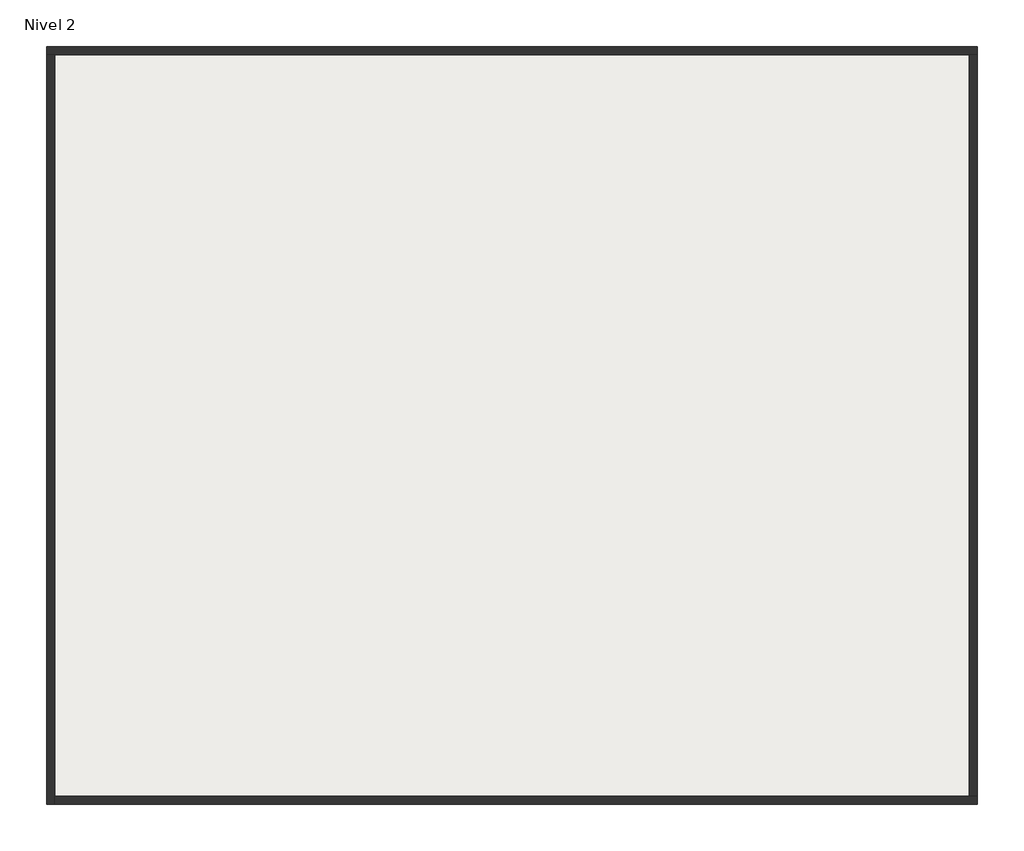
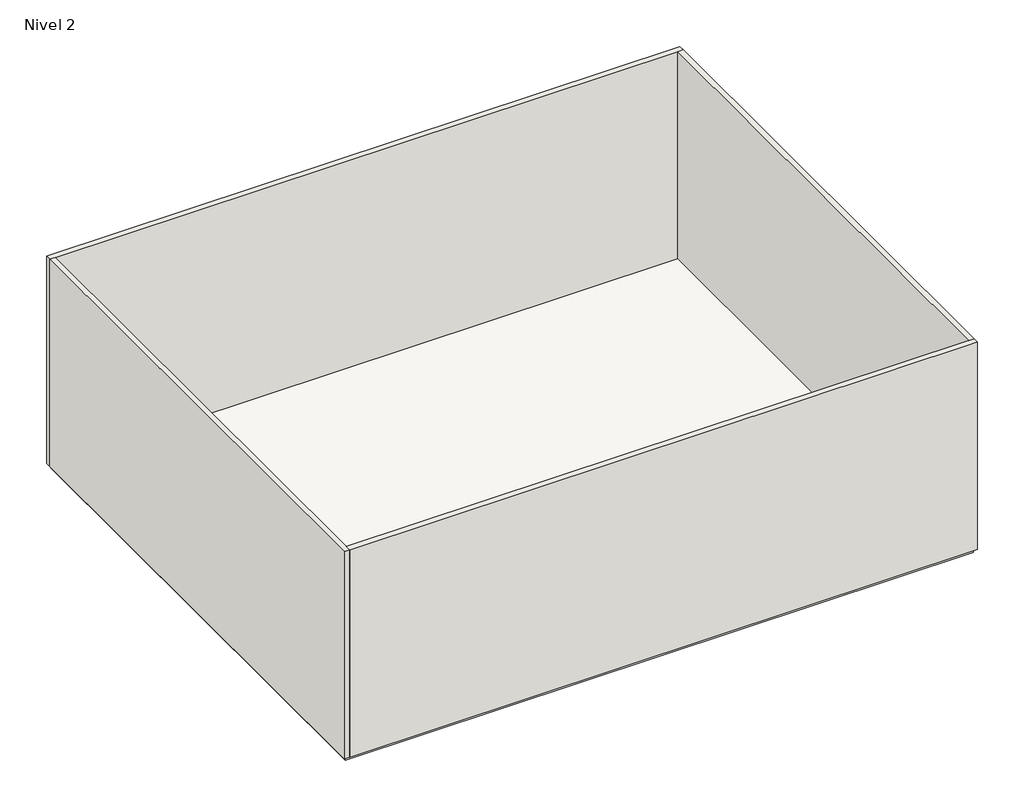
# One storey, incomplete: 4 walls, 1 slab.
"""IFC4 building model written with IfcOpenShell, lengths in millimetres."""

from ifc_helpers import new_model, si_unit, frame, origin, place, context, project, spatial, polyline, outline, extrude, faceted_brep, element, save

model = new_model("IFC4")

# Units and contexts
model_context = context("Model", 3, world=origin())
ifc_project = project(units=[si_unit("LENGTHUNIT", "METRE", prefix="MILLI")], contexts=[model_context])

# Site, building, storey
site = spatial("IfcSite", under=ifc_project)
building = spatial("IfcBuilding", under=site)
storey = spatial("IfcBuildingStorey", under=building, Name="Nivel 2", Elevation=4000.0)

# Slab
placement = place(None, origin())
element("IfcSlab", 1, ObjectType="Genérico 150 mm", at=placement, inside=storey, context=model_context, shape_type="SweptSolid", body=[
    extrude(outline(polyline([(13874.803467, 12152.27499), (13874.803467, -6447.72501), (-9025.196533, -6447.72501), (-9025.196533, 12152.27499), (13874.803467, 12152.27499)])), frame((0.0, 0.0, 3850.0), z_axis=(0.0, 0.0, 1.0), x_axis=(1.0, 0.0, 0.0)), (0.0, 0.0, 1.0), 150.0),
])

# Walls
element("IfcWall", 2, ObjectType="Genérico - 200 mm", at=placement, inside=storey, context=model_context, shape_type="Brep", body=[
    faceted_brep([(13974.803467, 12252.27499, 4000.0), (-9125.196533, 12252.27499, 4000.0), (-9125.196533, 12252.27499, 12000.0), (13974.803467, 12252.27499, 12000.0), (13974.803467, 12052.27499, 4000.0), (13974.803467, 12052.27499, 12000.0), (13774.803467, 12052.27499, 12000.0), (-8925.196533, 12052.27499, 12000.0), (-9125.196533, 12052.27499, 12000.0), (-9125.196533, 12052.27499, 4000.0), (-8925.196533, 12052.27499, 4000.0), (13774.803467, 12052.27499, 4000.0)], [[[0, 1, 2, 3]], [[4, 5, 6, 7, 8, 9, 10, 11]], [[1, 0, 4, 11, 10, 9]], [[3, 2, 8, 7, 6, 5]], [[2, 1, 9, 8]], [[0, 3, 5, 4]]]),
])
element("IfcWall", 3, ObjectType="Genérico - 200 mm", at=placement, inside=storey, context=model_context, shape_type="Brep", body=[
    faceted_brep([(-9125.196533, 12052.27499, 4000.0), (-9125.196533, -6547.72501, 4000.0), (-9125.196533, -6547.72501, 12000.0), (-9125.196533, 12052.27499, 12000.0), (-8925.196533, 12052.27499, 4000.0), (-8925.196533, 12052.27499, 12000.0), (-8925.196533, -6347.72501, 12000.0), (-8925.196533, -6547.72501, 12000.0), (-8925.196533, -6547.72501, 4000.0), (-8925.196533, -6347.72501, 4000.0)], [[[0, 1, 2, 3]], [[4, 5, 6, 7, 8, 9]], [[1, 0, 4, 9, 8]], [[3, 2, 7, 6, 5]], [[0, 3, 5, 4]], [[2, 1, 8, 7]]]),
])
element("IfcWall", 4, ObjectType="Genérico - 200 mm", at=placement, inside=storey, context=model_context, shape_type="Brep", body=[
    faceted_brep([(-8925.196533, -6547.72501, 4000.0), (13974.803467, -6547.72501, 4000.0), (13974.803467, -6547.72501, 12000.0), (-8925.196533, -6547.72501, 12000.0), (-8925.196533, -6347.72501, 4000.0), (-8925.196533, -6347.72501, 12000.0), (13774.803467, -6347.72501, 12000.0), (13974.803467, -6347.72501, 12000.0), (13974.803467, -6347.72501, 4000.0), (13774.803467, -6347.72501, 4000.0)], [[[0, 1, 2, 3]], [[4, 5, 6, 7, 8, 9]], [[1, 0, 4, 9, 8]], [[3, 2, 7, 6, 5]], [[0, 3, 5, 4]], [[2, 1, 8, 7]]]),
])
element("IfcWall", 5, ObjectType="Genérico - 200 mm", at=placement, inside=storey, context=model_context, shape_type="SweptSolid", body=[
    extrude(outline(polyline([(13774.803467, -6347.72501), (13774.803467, 12052.27499), (13974.803467, 12052.27499), (13974.803467, -6347.72501), (13774.803467, -6347.72501)])), frame((0.0, 0.0, 4000.0), z_axis=(0.0, 0.0, 1.0), x_axis=(1.0, 0.0, 0.0)), (0.0, 0.0, 1.0), 8000.0),
])

save(model, "model.ifc")
